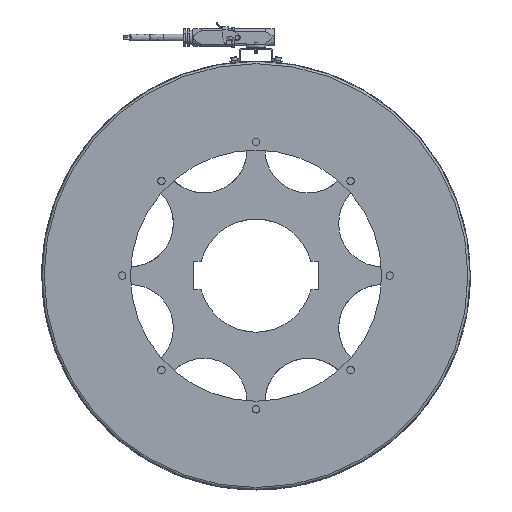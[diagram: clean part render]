
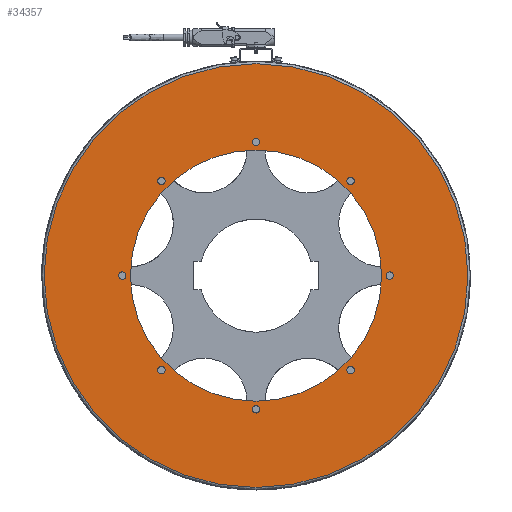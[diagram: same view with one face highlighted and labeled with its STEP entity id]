
A CAD part, left-side view. The second image highlights one B-rep face of the part: STEP entity #34357.
In plain terms, the highlighted planar face has unit normal (-1, 0, 0).
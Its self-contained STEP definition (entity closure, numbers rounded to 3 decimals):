
#405=FACE_BOUND('',#4574,.T.);
#406=FACE_BOUND('',#4575,.T.);
#407=FACE_BOUND('',#4576,.T.);
#408=FACE_BOUND('',#4577,.T.);
#409=FACE_BOUND('',#4578,.T.);
#410=FACE_BOUND('',#4579,.T.);
#411=FACE_BOUND('',#4580,.T.);
#412=FACE_BOUND('',#4581,.T.);
#413=FACE_BOUND('',#4582,.T.);
#1332=PLANE('',#36616);
#2751=FACE_OUTER_BOUND('',#4573,.T.);
#4573=EDGE_LOOP('',(#26835,#26836));
#4574=EDGE_LOOP('',(#26837,#26838));
#4575=EDGE_LOOP('',(#26839,#26840));
#4576=EDGE_LOOP('',(#26841,#26842));
#4577=EDGE_LOOP('',(#26843,#26844));
#4578=EDGE_LOOP('',(#26845,#26846));
#4579=EDGE_LOOP('',(#26847,#26848));
#4580=EDGE_LOOP('',(#26849,#26850));
#4581=EDGE_LOOP('',(#26851,#26852));
#4582=EDGE_LOOP('',(#26853,#26854));
#5959=CIRCLE('',#36617,299.5);
#5960=CIRCLE('',#36618,299.5);
#5961=CIRCLE('',#36619,5.25);
#5962=CIRCLE('',#36620,5.25);
#5963=CIRCLE('',#36621,5.25);
#5964=CIRCLE('',#36622,5.25);
#5965=CIRCLE('',#36623,5.25);
#5966=CIRCLE('',#36624,5.25);
#5967=CIRCLE('',#36625,5.25);
#5968=CIRCLE('',#36626,5.25);
#5969=CIRCLE('',#36627,5.25);
#5970=CIRCLE('',#36628,5.25);
#5971=CIRCLE('',#36629,5.25);
#5972=CIRCLE('',#36630,5.25);
#5973=CIRCLE('',#36631,5.25);
#5974=CIRCLE('',#36632,5.25);
#5975=CIRCLE('',#36633,5.25);
#5976=CIRCLE('',#36634,5.25);
#5977=CIRCLE('',#36635,177.5);
#5978=CIRCLE('',#36636,177.5);
#14886=VERTEX_POINT('',#55164);
#14887=VERTEX_POINT('',#55165);
#14888=VERTEX_POINT('',#55168);
#14889=VERTEX_POINT('',#55169);
#14890=VERTEX_POINT('',#55172);
#14891=VERTEX_POINT('',#55173);
#14892=VERTEX_POINT('',#55176);
#14893=VERTEX_POINT('',#55177);
#14894=VERTEX_POINT('',#55180);
#14895=VERTEX_POINT('',#55181);
#14896=VERTEX_POINT('',#55184);
#14897=VERTEX_POINT('',#55185);
#14898=VERTEX_POINT('',#55188);
#14899=VERTEX_POINT('',#55189);
#14900=VERTEX_POINT('',#55192);
#14901=VERTEX_POINT('',#55193);
#14902=VERTEX_POINT('',#55196);
#14903=VERTEX_POINT('',#55197);
#14904=VERTEX_POINT('',#55200);
#14905=VERTEX_POINT('',#55201);
#19112=EDGE_CURVE('',#14886,#14887,#5959,.T.);
#19113=EDGE_CURVE('',#14887,#14886,#5960,.T.);
#19114=EDGE_CURVE('',#14888,#14889,#5961,.T.);
#19115=EDGE_CURVE('',#14889,#14888,#5962,.T.);
#19116=EDGE_CURVE('',#14890,#14891,#5963,.T.);
#19117=EDGE_CURVE('',#14891,#14890,#5964,.T.);
#19118=EDGE_CURVE('',#14892,#14893,#5965,.T.);
#19119=EDGE_CURVE('',#14893,#14892,#5966,.T.);
#19120=EDGE_CURVE('',#14894,#14895,#5967,.T.);
#19121=EDGE_CURVE('',#14895,#14894,#5968,.T.);
#19122=EDGE_CURVE('',#14896,#14897,#5969,.T.);
#19123=EDGE_CURVE('',#14897,#14896,#5970,.T.);
#19124=EDGE_CURVE('',#14898,#14899,#5971,.T.);
#19125=EDGE_CURVE('',#14899,#14898,#5972,.T.);
#19126=EDGE_CURVE('',#14900,#14901,#5973,.T.);
#19127=EDGE_CURVE('',#14901,#14900,#5974,.T.);
#19128=EDGE_CURVE('',#14902,#14903,#5975,.T.);
#19129=EDGE_CURVE('',#14903,#14902,#5976,.T.);
#19130=EDGE_CURVE('',#14904,#14905,#5977,.T.);
#19131=EDGE_CURVE('',#14905,#14904,#5978,.T.);
#26835=ORIENTED_EDGE('',*,*,#19112,.F.);
#26836=ORIENTED_EDGE('',*,*,#19113,.F.);
#26837=ORIENTED_EDGE('',*,*,#19114,.T.);
#26838=ORIENTED_EDGE('',*,*,#19115,.T.);
#26839=ORIENTED_EDGE('',*,*,#19116,.T.);
#26840=ORIENTED_EDGE('',*,*,#19117,.T.);
#26841=ORIENTED_EDGE('',*,*,#19118,.T.);
#26842=ORIENTED_EDGE('',*,*,#19119,.T.);
#26843=ORIENTED_EDGE('',*,*,#19120,.T.);
#26844=ORIENTED_EDGE('',*,*,#19121,.T.);
#26845=ORIENTED_EDGE('',*,*,#19122,.T.);
#26846=ORIENTED_EDGE('',*,*,#19123,.T.);
#26847=ORIENTED_EDGE('',*,*,#19124,.T.);
#26848=ORIENTED_EDGE('',*,*,#19125,.T.);
#26849=ORIENTED_EDGE('',*,*,#19126,.T.);
#26850=ORIENTED_EDGE('',*,*,#19127,.T.);
#26851=ORIENTED_EDGE('',*,*,#19128,.T.);
#26852=ORIENTED_EDGE('',*,*,#19129,.T.);
#26853=ORIENTED_EDGE('',*,*,#19130,.F.);
#26854=ORIENTED_EDGE('',*,*,#19131,.F.);
#34357=ADVANCED_FACE('',(#2751,#405,#406,#407,#408,#409,#410,#411,#412,
#413),#1332,.T.);
#36616=AXIS2_PLACEMENT_3D('',#55163,#43758,#43759);
#36617=AXIS2_PLACEMENT_3D('',#55166,#43760,#43761);
#36618=AXIS2_PLACEMENT_3D('',#55167,#43762,#43763);
#36619=AXIS2_PLACEMENT_3D('',#55170,#43764,#43765);
#36620=AXIS2_PLACEMENT_3D('',#55171,#43766,#43767);
#36621=AXIS2_PLACEMENT_3D('',#55174,#43768,#43769);
#36622=AXIS2_PLACEMENT_3D('',#55175,#43770,#43771);
#36623=AXIS2_PLACEMENT_3D('',#55178,#43772,#43773);
#36624=AXIS2_PLACEMENT_3D('',#55179,#43774,#43775);
#36625=AXIS2_PLACEMENT_3D('',#55182,#43776,#43777);
#36626=AXIS2_PLACEMENT_3D('',#55183,#43778,#43779);
#36627=AXIS2_PLACEMENT_3D('',#55186,#43780,#43781);
#36628=AXIS2_PLACEMENT_3D('',#55187,#43782,#43783);
#36629=AXIS2_PLACEMENT_3D('',#55190,#43784,#43785);
#36630=AXIS2_PLACEMENT_3D('',#55191,#43786,#43787);
#36631=AXIS2_PLACEMENT_3D('',#55194,#43788,#43789);
#36632=AXIS2_PLACEMENT_3D('',#55195,#43790,#43791);
#36633=AXIS2_PLACEMENT_3D('',#55198,#43792,#43793);
#36634=AXIS2_PLACEMENT_3D('',#55199,#43794,#43795);
#36635=AXIS2_PLACEMENT_3D('',#55202,#43796,#43797);
#36636=AXIS2_PLACEMENT_3D('',#55203,#43798,#43799);
#43758=DIRECTION('center_axis',(-1.,0.,0.));
#43759=DIRECTION('ref_axis',(0.,0.,
1.));
#43760=DIRECTION('center_axis',(1.,0.,0.));
#43761=DIRECTION('ref_axis',(0.,-1.,0.));
#43762=DIRECTION('center_axis',(1.,0.,0.));
#43763=DIRECTION('ref_axis',(0.,-1.,0.));
#43764=DIRECTION('center_axis',(1.,0.,0.));
#43765=DIRECTION('ref_axis',(0.,0.,
1.));
#43766=DIRECTION('center_axis',(1.,0.,0.));
#43767=DIRECTION('ref_axis',(0.,0.,
1.));
#43768=DIRECTION('center_axis',(1.,0.,0.));
#43769=DIRECTION('ref_axis',(0.,0.,
1.));
#43770=DIRECTION('center_axis',(1.,0.,0.));
#43771=DIRECTION('ref_axis',(0.,0.,
1.));
#43772=DIRECTION('center_axis',(1.,0.,0.));
#43773=DIRECTION('ref_axis',(0.,0.,
1.));
#43774=DIRECTION('center_axis',(1.,0.,0.));
#43775=DIRECTION('ref_axis',(0.,0.,
1.));
#43776=DIRECTION('center_axis',(1.,0.,0.));
#43777=DIRECTION('ref_axis',(0.,0.,
1.));
#43778=DIRECTION('center_axis',(1.,0.,0.));
#43779=DIRECTION('ref_axis',(0.,0.,
1.));
#43780=DIRECTION('center_axis',(1.,0.,0.));
#43781=DIRECTION('ref_axis',(0.,0.,
1.));
#43782=DIRECTION('center_axis',(1.,0.,0.));
#43783=DIRECTION('ref_axis',(0.,0.,
1.));
#43784=DIRECTION('center_axis',(1.,0.,0.));
#43785=DIRECTION('ref_axis',(0.,0.,
1.));
#43786=DIRECTION('center_axis',(1.,0.,0.));
#43787=DIRECTION('ref_axis',(0.,0.,
1.));
#43788=DIRECTION('center_axis',(1.,0.,0.));
#43789=DIRECTION('ref_axis',(0.,0.,
1.));
#43790=DIRECTION('center_axis',(1.,0.,0.));
#43791=DIRECTION('ref_axis',(0.,0.,
1.));
#43792=DIRECTION('center_axis',(1.,0.,0.));
#43793=DIRECTION('ref_axis',(0.,0.,
1.));
#43794=DIRECTION('center_axis',(1.,0.,0.));
#43795=DIRECTION('ref_axis',(0.,0.,
1.));
#43796=DIRECTION('center_axis',(-1.,0.,0.));
#43797=DIRECTION('ref_axis',(0.,1.,0.));
#43798=DIRECTION('center_axis',(-1.,0.,0.));
#43799=DIRECTION('ref_axis',(0.,1.,0.));
#55163=CARTESIAN_POINT('Origin',(-39.2,240.,0.));
#55164=CARTESIAN_POINT('',(-39.2,299.5,0.));
#55165=CARTESIAN_POINT('',(-39.2,0.,-299.5));
#55166=CARTESIAN_POINT('Origin',(-39.2,0.,
0.));
#55167=CARTESIAN_POINT('Origin',(-39.2,0.,
0.));
#55168=CARTESIAN_POINT('',(-39.2,-189.,5.25));
#55169=CARTESIAN_POINT('',(-39.2,-189.,-5.25));
#55170=CARTESIAN_POINT('Origin',(-39.2,-189.,0.));
#55171=CARTESIAN_POINT('Origin',(-39.2,-189.,0.));
#55172=CARTESIAN_POINT('',(-39.2,0.,-183.75));
#55173=CARTESIAN_POINT('',(-39.2,0.,-194.25));
#55174=CARTESIAN_POINT('Origin',(-39.2,0.,
-189.));
#55175=CARTESIAN_POINT('Origin',(-39.2,0.,
-189.));
#55176=CARTESIAN_POINT('',(-39.2,189.,5.25));
#55177=CARTESIAN_POINT('',(-39.2,189.,-5.25));
#55178=CARTESIAN_POINT('Origin',(-39.2,189.,0.));
#55179=CARTESIAN_POINT('Origin',(-39.2,189.,0.));
#55180=CARTESIAN_POINT('',(-39.2,0.,194.25));
#55181=CARTESIAN_POINT('',(-39.2,0.,183.75));
#55182=CARTESIAN_POINT('Origin',(-39.2,0.,
189.));
#55183=CARTESIAN_POINT('Origin',(-39.2,0.,
189.));
#55184=CARTESIAN_POINT('',(-39.2,133.643,138.893));
#55185=CARTESIAN_POINT('',(-39.2,133.643,128.393));
#55186=CARTESIAN_POINT('Origin',(-39.2,133.643,133.643));
#55187=CARTESIAN_POINT('Origin',(-39.2,133.643,133.643));
#55188=CARTESIAN_POINT('',(-39.2,133.643,-128.393));
#55189=CARTESIAN_POINT('',(-39.2,133.643,-138.893));
#55190=CARTESIAN_POINT('Origin',(-39.2,133.643,-133.643));
#55191=CARTESIAN_POINT('Origin',(-39.2,133.643,-133.643));
#55192=CARTESIAN_POINT('',(-39.2,-133.643,-128.393));
#55193=CARTESIAN_POINT('',(-39.2,-133.643,-138.893));
#55194=CARTESIAN_POINT('Origin',(-39.2,-133.643,-133.643));
#55195=CARTESIAN_POINT('Origin',(-39.2,-133.643,-133.643));
#55196=CARTESIAN_POINT('',(-39.2,-133.643,138.893));
#55197=CARTESIAN_POINT('',(-39.2,-133.643,128.393));
#55198=CARTESIAN_POINT('Origin',(-39.2,-133.643,133.643));
#55199=CARTESIAN_POINT('Origin',(-39.2,-133.643,133.643));
#55200=CARTESIAN_POINT('',(-39.2,177.5,0.));
#55201=CARTESIAN_POINT('',(-39.2,-177.5,0.));
#55202=CARTESIAN_POINT('Origin',(-39.2,0.,
0.));
#55203=CARTESIAN_POINT('Origin',(-39.2,0.,
0.));
